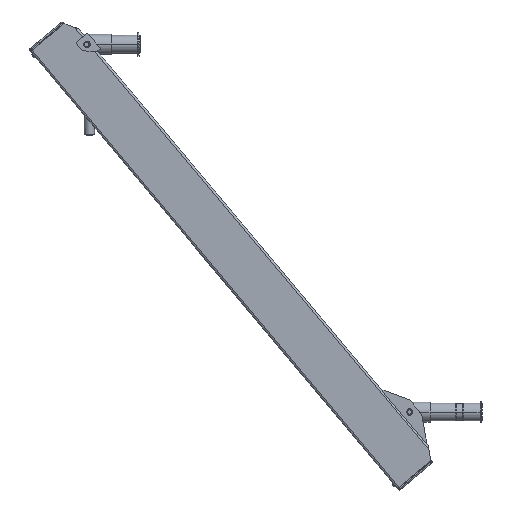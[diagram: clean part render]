
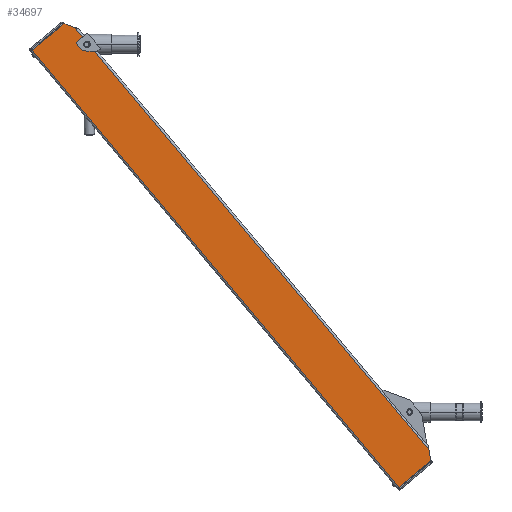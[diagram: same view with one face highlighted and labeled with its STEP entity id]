
A CAD part, left-side view. The second image highlights one B-rep face of the part: STEP entity #34697.
In plain terms, the highlighted planar face has unit normal (-1, 0, 0).
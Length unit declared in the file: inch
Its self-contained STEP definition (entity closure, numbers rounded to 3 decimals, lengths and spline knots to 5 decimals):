
#849 = VERTEX_POINT ( 'NONE', #22938 ) ;
#1251 = ORIENTED_EDGE ( 'NONE', *, *, #37626, .T. ) ;
#1964 = VECTOR ( 'NONE', #22217, 39.37008 ) ;
#2022 = ORIENTED_EDGE ( 'NONE', *, *, #36306, .F. ) ;
#2580 = EDGE_CURVE ( 'NONE', #43453, #849, #51605, .T. ) ;
#2826 = CIRCLE ( 'NONE', #50400, 0.14062 ) ;
#2941 = DIRECTION ( 'NONE',  ( 0., 0., -1. ) ) ;
#3199 = CARTESIAN_POINT ( 'NONE',  ( -1.5, -2.315, 26.5 ) ) ;
#3749 = VECTOR ( 'NONE', #15151, 39.37008 ) ;
#4001 = DIRECTION ( 'NONE',  ( 0., -1., 0. ) ) ;
#4177 = VECTOR ( 'NONE', #52272, 39.37008 ) ;
#5995 = CARTESIAN_POINT ( 'NONE',  ( -1.5, -2.5, 0.64952 ) ) ;
#6125 = CARTESIAN_POINT ( 'NONE',  ( -1.5, -2.5, 26.625 ) ) ;
#8075 = FACE_OUTER_BOUND ( 'NONE', #50195, .T. ) ;
#8516 = CARTESIAN_POINT ( 'NONE',  ( -1.5, -0.1, 28. ) ) ;
#8933 = LINE ( 'NONE', #37654, #1964 ) ;
#11815 = CIRCLE ( 'NONE', #53367, 0.14062 ) ;
#11940 = DIRECTION ( 'NONE',  ( 0., 0., -1. ) ) ;
#12132 = EDGE_CURVE ( 'NONE', #39312, #36052, #16003, .T. ) ;
#13183 = ORIENTED_EDGE ( 'NONE', *, *, #36580, .F. ) ;
#13216 = VERTEX_POINT ( 'NONE', #20787 ) ;
#14586 = LINE ( 'NONE', #31155, #18422 ) ;
#14786 = DIRECTION ( 'NONE',  ( 0., 1., 0. ) ) ;
#15151 = DIRECTION ( 'NONE',  ( 0., 0., -1. ) ) ;
#15447 = ORIENTED_EDGE ( 'NONE', *, *, #52169, .T. ) ;
#15647 = PLANE ( 'NONE',  #42571 ) ;
#15947 = LINE ( 'NONE', #28175, #3749 ) ;
#16003 = LINE ( 'NONE', #49058, #27677 ) ;
#16894 = LINE ( 'NONE', #5995, #50467 ) ;
#17118 = VERTEX_POINT ( 'NONE', #52492 ) ;
#18422 = VECTOR ( 'NONE', #2941, 39.37008 ) ;
#18496 = ORIENTED_EDGE ( 'NONE', *, *, #24913, .T. ) ;
#18859 = LINE ( 'NONE', #51899, #35097 ) ;
#19167 = DIRECTION ( 'NONE',  ( 0., 1., 0. ) ) ;
#19514 = LINE ( 'NONE', #44692, #4177 ) ;
#20411 = VERTEX_POINT ( 'NONE', #50186 ) ;
#20558 = ORIENTED_EDGE ( 'NONE', *, *, #36734, .T. ) ;
#20787 = CARTESIAN_POINT ( 'NONE',  ( -1.5, -2.125, 28. ) ) ;
#21256 = DIRECTION ( 'NONE',  ( 0., -0.5, 0.866 ) ) ;
#21573 = ORIENTED_EDGE ( 'NONE', *, *, #23364, .F. ) ;
#21587 = DIRECTION ( 'NONE',  ( 0., 1., 0. ) ) ;
#22217 = DIRECTION ( 'NONE',  ( 0., 1., 0. ) ) ;
#22243 = CARTESIAN_POINT ( 'NONE',  ( -1.5, -2.37942, 26.375 ) ) ;
#22938 = CARTESIAN_POINT ( 'NONE',  ( -1.5, -2.4, 26.625 ) ) ;
#23069 = VERTEX_POINT ( 'NONE', #22243 ) ;
#23364 = EDGE_CURVE ( 'NONE', #20411, #17118, #15947, .T. ) ;
#24913 = EDGE_CURVE ( 'NONE', #20411, #23069, #35705, .T. ) ;
#26704 = DIRECTION ( 'NONE',  ( 1., 0., 0. ) ) ;
#27363 = VERTEX_POINT ( 'NONE', #45779 ) ;
#27677 = VECTOR ( 'NONE', #11940, 39.37008 ) ;
#27882 = VERTEX_POINT ( 'NONE', #33045 ) ;
#28094 = ORIENTED_EDGE ( 'NONE', *, *, #49249, .T. ) ;
#28175 = CARTESIAN_POINT ( 'NONE',  ( -1.5, -2.4, 28. ) ) ;
#28632 = EDGE_CURVE ( 'NONE', #13216, #39312, #18859, .T. ) ;
#29880 = ORIENTED_EDGE ( 'NONE', *, *, #12132, .T. ) ;
#31155 = CARTESIAN_POINT ( 'NONE',  ( -1.5, -2.4, 28. ) ) ;
#31654 = CARTESIAN_POINT ( 'NONE',  ( -1.5, -2.5, 26.375 ) ) ;
#31871 = CARTESIAN_POINT ( 'NONE',  ( -1.5, -2.4, 27.52369 ) ) ;
#31951 = CARTESIAN_POINT ( 'NONE',  ( -1.5, -0.1, 28. ) ) ;
#31961 = DIRECTION ( 'NONE',  ( 1., 0., 0. ) ) ;
#32009 = ORIENTED_EDGE ( 'NONE', *, *, #2580, .T. ) ;
#33045 = CARTESIAN_POINT ( 'NONE',  ( -1.5, -2.125, 0. ) ) ;
#34697 = ADVANCED_FACE ( 'NONE', ( #8075 ), #15647, .T. ) ;
#35097 = VECTOR ( 'NONE', #14786, 39.37008 ) ;
#35705 = LINE ( 'NONE', #31654, #46200 ) ;
#36052 = VERTEX_POINT ( 'NONE', #41193 ) ;
#36306 = EDGE_CURVE ( 'NONE', #27882, #36052, #8933, .T. ) ;
#36580 = EDGE_CURVE ( 'NONE', #37587, #849, #14586, .T. ) ;
#36734 = EDGE_CURVE ( 'NONE', #27363, #43453, #2826, .T. ) ;
#37587 = VERTEX_POINT ( 'NONE', #31871 ) ;
#37626 = EDGE_CURVE ( 'NONE', #27882, #17118, #16894, .T. ) ;
#37654 = CARTESIAN_POINT ( 'NONE',  ( -1.5, -0.1, 0. ) ) ;
#39312 = VERTEX_POINT ( 'NONE', #8516 ) ;
#40052 = DIRECTION ( 'NONE',  ( -1., 0., 0. ) ) ;
#41193 = CARTESIAN_POINT ( 'NONE',  ( -1.5, -0.1, 0. ) ) ;
#42571 = AXIS2_PLACEMENT_3D ( 'NONE', #31951, #40052, #4001 ) ;
#43214 = CARTESIAN_POINT ( 'NONE',  ( -1.5, -2.315, 26.5 ) ) ;
#43453 = VERTEX_POINT ( 'NONE', #47376 ) ;
#44692 = CARTESIAN_POINT ( 'NONE',  ( -1.5, -2.5, 27.35048 ) ) ;
#45779 = CARTESIAN_POINT ( 'NONE',  ( -1.5, -2.17438, 26.5 ) ) ;
#46200 = VECTOR ( 'NONE', #19167, 39.37008 ) ;
#46402 = ORIENTED_EDGE ( 'NONE', *, *, #28632, .T. ) ;
#47376 = CARTESIAN_POINT ( 'NONE',  ( -1.5, -2.37942, 26.625 ) ) ;
#48603 = VECTOR ( 'NONE', #51344, 39.37008 ) ;
#49058 = CARTESIAN_POINT ( 'NONE',  ( -1.5, -0.1, 28. ) ) ;
#49247 = DIRECTION ( 'NONE',  ( 0., 1., 0. ) ) ;
#49249 = EDGE_CURVE ( 'NONE', #23069, #27363, #11815, .T. ) ;
#50186 = CARTESIAN_POINT ( 'NONE',  ( -1.5, -2.4, 26.375 ) ) ;
#50195 = EDGE_LOOP ( 'NONE', ( #15447, #46402, #29880, #2022, #1251, #21573, #18496, #28094, #20558, #32009, #13183 ) ) ;
#50400 = AXIS2_PLACEMENT_3D ( 'NONE', #3199, #31961, #49247 ) ;
#50467 = VECTOR ( 'NONE', #21256, 39.37008 ) ;
#51344 = DIRECTION ( 'NONE',  ( 0., -1., 0. ) ) ;
#51605 = LINE ( 'NONE', #6125, #48603 ) ;
#51899 = CARTESIAN_POINT ( 'NONE',  ( -1.5, -0.1, 28. ) ) ;
#52169 = EDGE_CURVE ( 'NONE', #37587, #13216, #19514, .T. ) ;
#52272 = DIRECTION ( 'NONE',  ( 0., 0.5, 0.866 ) ) ;
#52492 = CARTESIAN_POINT ( 'NONE',  ( -1.5, -2.4, 0.47631 ) ) ;
#53367 = AXIS2_PLACEMENT_3D ( 'NONE', #43214, #26704, #21587 ) ;
